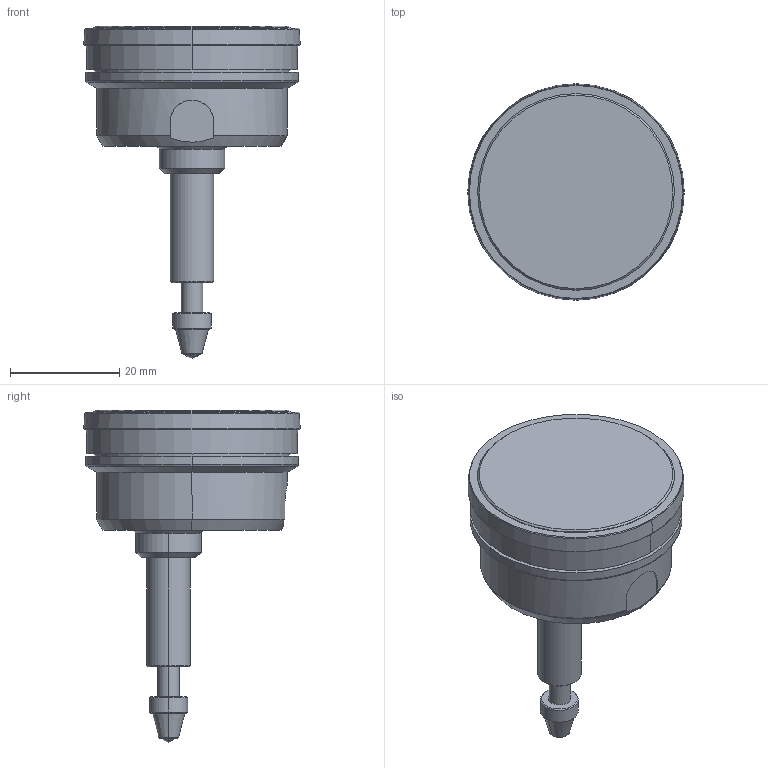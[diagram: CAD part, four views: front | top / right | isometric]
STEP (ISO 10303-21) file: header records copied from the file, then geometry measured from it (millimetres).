
FILE_DESCRIPTION(('Creo Elements/Direct Modeling STEP Export'),'2;1');
FILE_NAME('1162T.stp','2020-03-23T 9:29:54',(''),(''),'Creo Elements/Direct Modeling STEP processor for AP214 (Solid Model)','Creo Elements/Direct Modeling 18.1I 13-Aug-2016 (C) Parametric Technology GmbH','');
FILE_SCHEMA(('AUTOMOTIVE_DESIGN { 1 0 10303 214 1 1 1 1 }'));
Length unit declared in the file: millimetre
Products named in the file (2): 1162T
Assembly tree (1 placements, depth 2):
  1162T
    1162T
Bounding box: 39.71 x 39.71 x 60.9 mm (x, y, z)
Volume: 25290.4 mm3; surface area: 6093.1 mm2
Topology: 1 solids, 1 shells, 71 faces, 178 edges, 118 vertices
Faces by surface type: cone 30, cylinder 21, plane 15, torus 3, sphere 2
Entity records: 2215 total; most frequent: CARTESIAN_POINT 621, ORIENTED_EDGE 352, DIRECTION 300, EDGE_CURVE 176, AXIS2_PLACEMENT_3D 122, VERTEX_POINT 118, EDGE_LOOP 82, FACE_OUTER_BOUND 71
